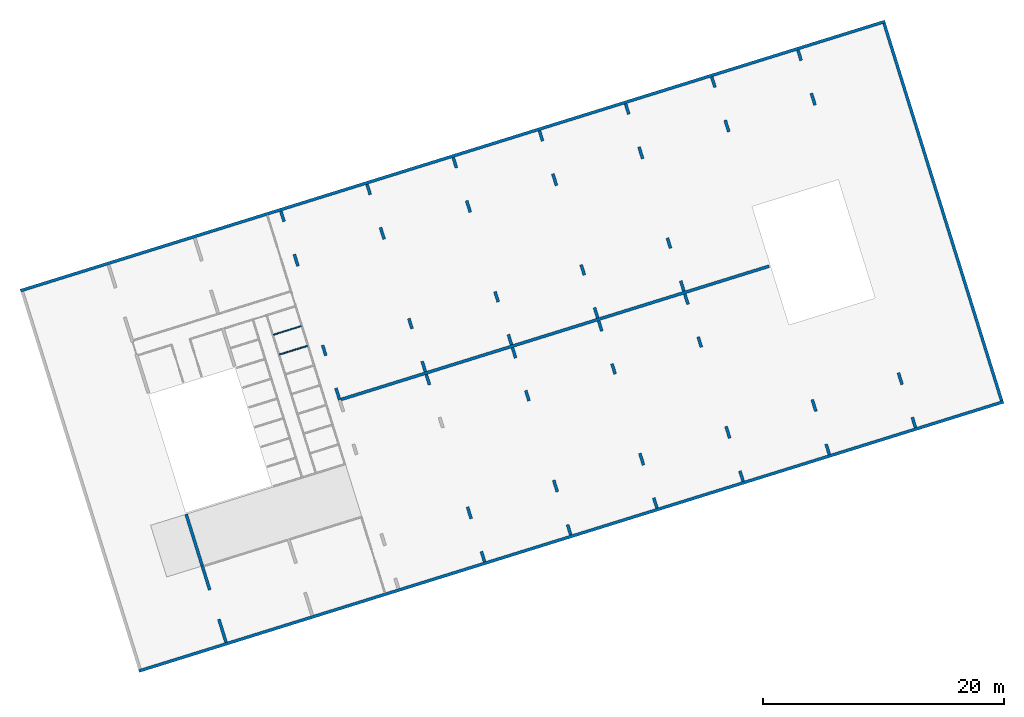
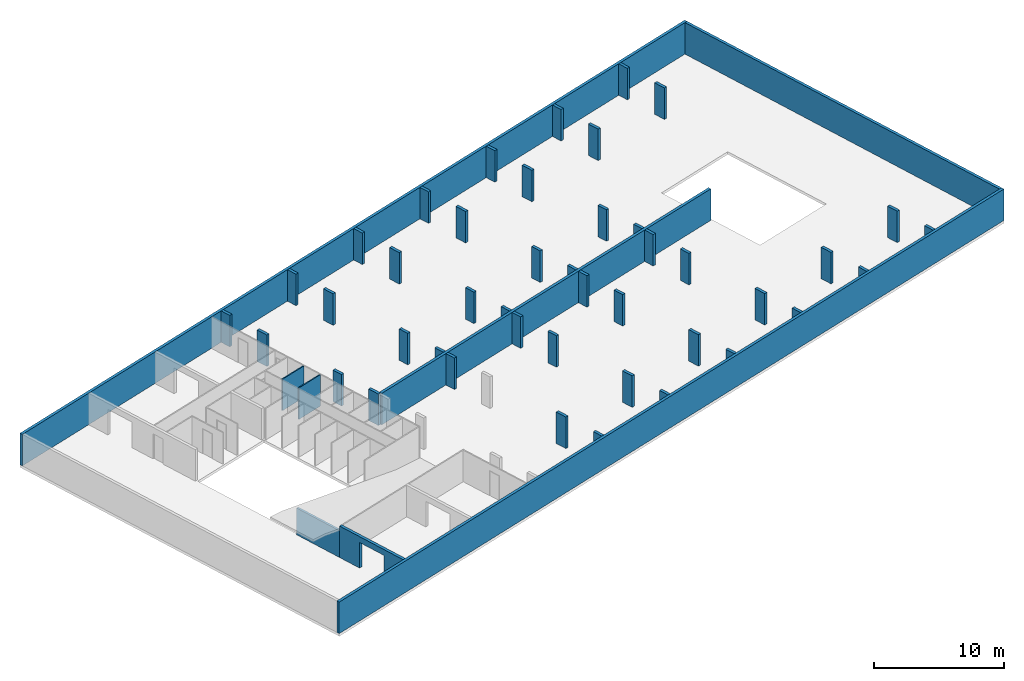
# One storey, part 2 of 4: 51 walls, 1 opening.
"""IFC4 building model written with IfcOpenShell, lengths in metres."""

from ifc_helpers import new_model, entity, si_unit, converted_unit, direction, frame, origin, place, context, subcontext, project, spatial, indexed_curve, outline, extrude, polygons, material, type_object, element, save


model = new_model("IFC4")

# Units and contexts
model_context = context("Model", 3, precision=1e-05, world=origin(), true_north=direction((6.12323399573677e-17, 1.0)))
body_context = subcontext(model_context, "Body", "Model", "MODEL_VIEW")
ifc_project = project(units=[si_unit("LENGTHUNIT", "METRE"), si_unit("AREAUNIT", "SQUARE_METRE"), si_unit("VOLUMEUNIT", "CUBIC_METRE"), converted_unit("PLANEANGLEUNIT", "DEGREE", entity("IfcPlaneAngleMeasure", 0.0174532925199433), si_unit("PLANEANGLEUNIT", "RADIAN"), dimensions=[0, 0, 0, 0, 0, 0, 0])], contexts=[model_context])

# Site, building, storey
site_placement = place(None, frame((13.1347999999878, 11.9886000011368, 0.0), z_axis=(0.0, 0.0, 1.0), x_axis=(0.954770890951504, 0.297342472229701, 0.0)))
site = spatial("IfcSite", under=ifc_project, at=site_placement, Name="Schiehaven", CompositionType="ELEMENT")
building_placement = place(site_placement, origin())
building = spatial("IfcBuilding", under=site, at=building_placement, Name="VORM huis", CompositionType="ELEMENT")
storey_placement = place(building_placement, frame((0.0, 0.0, -3.2)))
storey = spatial("IfcBuildingStorey", under=building, at=storey_placement, Name="-1 kelder", CompositionType="ELEMENT", Elevation=-3.2)

# Walls
ifc_material_1 = material(Name="beton_gewapend_ihw", Category="Miscellaneous")
wall_type_1 = type_object("IfcWallType", Name="Basic Wall:28_WA_skelet_keerwand 250mm_gen", PredefinedType="STANDARD")
wall_1_placement = place(storey_placement, frame((80.1250000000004, 0.499999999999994, 0.0), z_axis=(0.0, 0.0, 1.0), x_axis=(-1.0, 0.0, 0.0)))
element("IfcWall", 1, at=wall_1_placement, inside=storey, type_object=wall_type_1, material=ifc_material_1, Name="Constructieve keerwand", ObjectType="Wand", PredefinedType="NOTDEFINED", context=body_context, shape_type="SweptSolid", body=[
    extrude(outline(indexed_curve([(75.2500000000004, 0.125), (0.0, 0.125), (0.0, -0.125), (75.2500000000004, -0.125), (75.2500000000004, 0.125)], self_intersect=False)), origin(), (0.0, 0.0, 1.0), 2.95),
])
wall_2_placement = place(storey_placement, frame((80.1250000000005, 33.5999999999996, 0.0), z_axis=(0.0, 0.0, 1.0), x_axis=(-1.0, 0.0, 0.0)))
element("IfcWall", 2, at=wall_2_placement, inside=storey, type_object=wall_type_1, material=ifc_material_1, Name="Constructieve keerwand", ObjectType="Wand", PredefinedType="NOTDEFINED", context=body_context, shape_type="SweptSolid", body=[
    extrude(outline(indexed_curve([(75.2500000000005, 0.125000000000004), (-8.09239413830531e-16, 0.125000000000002), (8.09239413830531e-16, -0.125000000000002), (75.2500000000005, -0.125), (75.2500000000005, 0.125000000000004)], self_intersect=False)), origin(), (0.0, 0.0, 1.0), 2.95),
])
wall_3_placement = place(storey_placement, frame((80.0, 0.624999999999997, 0.0), z_axis=(0.0, 0.0, 1.0), x_axis=(0.0, 1.0, 0.0)))
element("IfcWall", 3, at=wall_3_placement, inside=storey, type_object=wall_type_1, material=ifc_material_1, Name="Constructieve keerwand", ObjectType="Wand", PredefinedType="NOTDEFINED", context=body_context, shape_type="SweptSolid", body=[
    extrude(outline(indexed_curve([(32.8499999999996, 0.125000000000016), (-2.9990862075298e-16, 0.125000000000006), (2.9990862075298e-16, -0.125000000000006), (32.8499999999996, -0.124999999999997), (32.8499999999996, 0.125000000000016)], self_intersect=False)), origin(), (0.0, 0.0, 1.0), 2.95),
])
wall_type_2 = type_object("IfcWallType", Name="Basic Wall:28_WA_skelet_wand 250mm_gen", PredefinedType="STANDARD")
wall_4_placement = place(storey_placement, frame((27.6250000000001, 17.0499999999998, 0.0)))
element("IfcWall", 4, at=wall_4_placement, inside=storey, type_object=wall_type_2, material=ifc_material_1, Name="Constructieve wand", ObjectType="Wand", PredefinedType="NOTDEFINED", context=body_context, shape_type="SweptSolid", body=[
    extrude(outline(indexed_curve([(37.25, 0.125), (0.0, 0.125), (0.0, -0.125), (37.25, -0.125), (37.25, 0.125)], self_intersect=False)), origin(), (0.0, 0.0, 1.0), 2.95),
])

# Wall, opening
wall_5_placement = place(storey_placement, frame((12.5, 0.624999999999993, 0.0), z_axis=(0.0, 0.0, 1.0), x_axis=(0.0, 1.0, 0.0)))
wall_5 = element("IfcWall", 5, at=wall_5_placement, inside=storey, type_object=wall_type_2, material=ifc_material_1, Name="Constructieve wand", ObjectType="Wand", PredefinedType="NOTDEFINED", context=body_context, shape_type="Tessellation", body=[
    polygons([(6.65000000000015, -0.124999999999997, 0.0), (6.65000000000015, -0.124999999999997, 2.95), (1.21822552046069e-15, -0.124999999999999, 2.95), (1.35358391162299e-15, -0.124999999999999, 0.0), (2.00000000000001, -0.124999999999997, 0.0), (2.00000000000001, -0.124999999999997, 2.4), (4.55000000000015, -0.124999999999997, 2.4), (4.55000000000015, -0.124999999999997, 0.0), (6.65000000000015, 0.125000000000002, 2.95), (6.65000000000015, 0.125000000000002, 0.0), (4.55000000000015, 0.125000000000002, 0.0), (4.55000000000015, 0.125000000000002, 2.4), (2.00000000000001, 0.125000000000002, 2.4), (2.00000000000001, 0.125000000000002, 0.0), (1.35358391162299e-16, 0.125000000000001, 0.0), (0.0, 0.125000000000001, 2.95)], [[[1, 2, 3, 4, 5, 6, 7, 8]], [[9, 10, 11, 12, 13, 14, 15, 16]], [[4, 15, 14, 5]], [[2, 1, 10, 9]], [[3, 2, 9, 16]], [[4, 3, 16, 15]], [[6, 13, 12, 7]], [[13, 6, 5, 14]], [[7, 12, 11, 8]], [[10, 1, 8, 11]]], closed=True),
])
opening_placement = place(wall_5_placement, origin())
element("IfcOpeningElement", 6, at=opening_placement, cuts=wall_5, Name="Constructieve wand", PredefinedType="OPENING", context=body_context, shape_type="SweptSolid", body=[
    extrude(outline(indexed_curve([(-1.2, -1.27500000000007), (1.2, -1.27500000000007), (1.2, 1.27500000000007), (-1.2, 1.27500000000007), (-1.2, -1.27500000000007)], self_intersect=False)), frame((3.27500000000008, -0.124999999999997, 1.2), z_axis=(0.0, 1.0, 0.0), x_axis=(0.0, 0.0, -1.0)), (0.0, 0.0, 1.0), 0.249999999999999),
])

# Walls
wall_6_placement = place(storey_placement, frame((35.0, 16.0249999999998, 0.0), z_axis=(0.0, 0.0, 1.0), x_axis=(0.0, 1.0, 0.0)))
element("IfcWall", 7, at=wall_6_placement, inside=storey, type_object=wall_type_2, material=ifc_material_1, Name="Constructieve wand", ObjectType="Wand", PredefinedType="NOTDEFINED", context=body_context, shape_type="SweptSolid", body=[
    extrude(outline(indexed_curve([(0.900000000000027, 0.125000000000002), (0.0, 0.125000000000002), (0.0, -0.125000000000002), (0.900000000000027, -0.125000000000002), (0.900000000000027, 0.125000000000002)], self_intersect=False)), origin(), (0.0, 0.0, 1.0), 2.95),
])
wall_7_placement = place(storey_placement, frame((35.0, 4.37499999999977, 0.0), z_axis=(0.0, 0.0, 1.0), x_axis=(0.0, 1.0, 0.0)))
element("IfcWall", 8, at=wall_7_placement, inside=storey, type_object=wall_type_2, material=ifc_material_1, Name="Constructieve wand", ObjectType="Wand", PredefinedType="NOTDEFINED", context=body_context, shape_type="SweptSolid", body=[
    extrude(outline(indexed_curve([(1.02499999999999, 0.125000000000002), (0.0, 0.125000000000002), (0.0, -0.125000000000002), (1.02499999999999, -0.125000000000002), (1.02499999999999, 0.125000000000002)], self_intersect=False)), origin(), (0.0, 0.0, 1.0), 2.95),
])
wall_8_placement = place(storey_placement, frame((42.5000000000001, 12.2949999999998, 0.0), z_axis=(0.0, 0.0, 1.0), x_axis=(0.0, 1.0, 0.0)))
element("IfcWall", 9, at=wall_8_placement, inside=storey, type_object=wall_type_2, material=ifc_material_1, Name="Constructieve wand", ObjectType="Wand", PredefinedType="NOTDEFINED", context=body_context, shape_type="SweptSolid", body=[
    extrude(outline(indexed_curve([(0.900000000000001, 0.124999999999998), (0.0, 0.124999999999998), (0.0, -0.124999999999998), (0.900000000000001, -0.124999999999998), (0.900000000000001, 0.124999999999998)], self_intersect=False)), origin(), (0.0, 0.0, 1.0), 2.95),
])
wall_9_placement = place(storey_placement, frame((42.5000000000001, 16.0249999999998, 0.0), z_axis=(0.0, 0.0, 1.0), x_axis=(0.0, 1.0, 0.0)))
element("IfcWall", 10, at=wall_9_placement, inside=storey, type_object=wall_type_2, material=ifc_material_1, Name="Constructieve wand", ObjectType="Wand", PredefinedType="NOTDEFINED", context=body_context, shape_type="SweptSolid", body=[
    extrude(outline(indexed_curve([(0.900000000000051, 0.124999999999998), (0.0, 0.124999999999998), (0.0, -0.124999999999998), (0.900000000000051, -0.124999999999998), (0.900000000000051, 0.124999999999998)], self_intersect=False)), origin(), (0.0, 0.0, 1.0), 2.95),
])
wall_10_placement = place(storey_placement, frame((42.5, 4.37499999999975, 0.0), z_axis=(0.0, 0.0, 1.0), x_axis=(0.0, 1.0, 0.0)))
element("IfcWall", 11, at=wall_10_placement, inside=storey, type_object=wall_type_2, material=ifc_material_1, Name="Constructieve wand", ObjectType="Wand", PredefinedType="NOTDEFINED", context=body_context, shape_type="SweptSolid", body=[
    extrude(outline(indexed_curve([(1.02499999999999, 0.124999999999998), (0.0, 0.124999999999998), (0.0, -0.124999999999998), (1.02499999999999, -0.124999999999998), (1.02499999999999, 0.124999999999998)], self_intersect=False)), origin(), (0.0, 0.0, 1.0), 2.95),
])
wall_11_placement = place(storey_placement, frame((50.0, 12.2949999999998, 0.0), z_axis=(0.0, 0.0, 1.0), x_axis=(0.0, 1.0, 0.0)))
element("IfcWall", 12, at=wall_11_placement, inside=storey, type_object=wall_type_2, material=ifc_material_1, Name="Constructieve wand", ObjectType="Wand", PredefinedType="NOTDEFINED", context=body_context, shape_type="SweptSolid", body=[
    extrude(outline(indexed_curve([(0.900000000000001, 0.124999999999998), (0.0, 0.124999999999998), (0.0, -0.124999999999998), (0.900000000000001, -0.124999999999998), (0.900000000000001, 0.124999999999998)], self_intersect=False)), origin(), (0.0, 0.0, 1.0), 2.95),
])
wall_12_placement = place(storey_placement, frame((50.0, 16.0249999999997, 0.0), z_axis=(0.0, 0.0, 1.0), x_axis=(0.0, 1.0, 0.0)))
element("IfcWall", 13, at=wall_12_placement, inside=storey, type_object=wall_type_2, material=ifc_material_1, Name="Constructieve wand", ObjectType="Wand", PredefinedType="NOTDEFINED", context=body_context, shape_type="SweptSolid", body=[
    extrude(outline(indexed_curve([(0.900000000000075, 0.124999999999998), (0.0, 0.124999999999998), (0.0, -0.124999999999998), (0.900000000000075, -0.124999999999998), (0.900000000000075, 0.124999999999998)], self_intersect=False)), origin(), (0.0, 0.0, 1.0), 2.95),
])
wall_13_placement = place(storey_placement, frame((50.0, 4.37499999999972, 0.0), z_axis=(0.0, 0.0, 1.0), x_axis=(0.0, 1.0, 0.0)))
element("IfcWall", 14, at=wall_13_placement, inside=storey, type_object=wall_type_2, material=ifc_material_1, Name="Constructieve wand", ObjectType="Wand", PredefinedType="NOTDEFINED", context=body_context, shape_type="SweptSolid", body=[
    extrude(outline(indexed_curve([(1.02499999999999, 0.124999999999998), (0.0, 0.124999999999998), (0.0, -0.124999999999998), (1.02499999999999, -0.124999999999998), (1.02499999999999, 0.124999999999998)], self_intersect=False)), origin(), (0.0, 0.0, 1.0), 2.95),
])
wall_14_placement = place(storey_placement, frame((57.5, 12.2949999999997, 0.0), z_axis=(0.0, 0.0, 1.0), x_axis=(0.0, 1.0, 0.0)))
element("IfcWall", 15, at=wall_14_placement, inside=storey, type_object=wall_type_2, material=ifc_material_1, Name="Constructieve wand", ObjectType="Wand", PredefinedType="NOTDEFINED", context=body_context, shape_type="SweptSolid", body=[
    extrude(outline(indexed_curve([(0.900000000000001, 0.124999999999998), (0.0, 0.124999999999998), (0.0, -0.124999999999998), (0.900000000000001, -0.124999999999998), (0.900000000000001, 0.124999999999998)], self_intersect=False)), origin(), (0.0, 0.0, 1.0), 2.95),
])
wall_15_placement = place(storey_placement, frame((57.5, 16.0249999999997, 0.0), z_axis=(0.0, 0.0, 1.0), x_axis=(0.0, 1.0, 0.0)))
element("IfcWall", 16, at=wall_15_placement, inside=storey, type_object=wall_type_2, material=ifc_material_1, Name="Constructieve wand", ObjectType="Wand", PredefinedType="NOTDEFINED", context=body_context, shape_type="SweptSolid", body=[
    extrude(outline(indexed_curve([(0.900000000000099, 0.124999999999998), (0.0, 0.124999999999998), (0.0, -0.124999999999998), (0.900000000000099, -0.124999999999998), (0.900000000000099, 0.124999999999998)], self_intersect=False)), origin(), (0.0, 0.0, 1.0), 2.95),
])
wall_16_placement = place(storey_placement, frame((57.5, 4.3749999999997, 0.0), z_axis=(0.0, 0.0, 1.0), x_axis=(0.0, 1.0, 0.0)))
element("IfcWall", 17, at=wall_16_placement, inside=storey, type_object=wall_type_2, material=ifc_material_1, Name="Constructieve wand", ObjectType="Wand", PredefinedType="NOTDEFINED", context=body_context, shape_type="SweptSolid", body=[
    extrude(outline(indexed_curve([(1.025, 0.124999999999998), (0.0, 0.124999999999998), (0.0, -0.124999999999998), (1.025, -0.124999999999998), (1.025, 0.124999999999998)], self_intersect=False)), origin(), (0.0, 0.0, 1.0), 2.95),
])
wall_17_placement = place(storey_placement, frame((65.0, 4.37499999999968, 0.0), z_axis=(0.0, 0.0, 1.0), x_axis=(0.0, 1.0, 0.0)))
element("IfcWall", 18, at=wall_17_placement, inside=storey, type_object=wall_type_2, material=ifc_material_1, Name="Constructieve wand", ObjectType="Wand", PredefinedType="NOTDEFINED", context=body_context, shape_type="SweptSolid", body=[
    extrude(outline(indexed_curve([(1.02499999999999, 0.124999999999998), (0.0, 0.124999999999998), (0.0, -0.124999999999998), (1.02499999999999, -0.124999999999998), (1.02499999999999, 0.124999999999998)], self_intersect=False)), origin(), (0.0, 0.0, 1.0), 2.95),
])
wall_18_placement = place(storey_placement, frame((35.0, 1.52499999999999, 0.0), z_axis=(0.0, 0.0, 1.0), x_axis=(0.0, -1.0, 0.0)))
element("IfcWall", 19, at=wall_18_placement, inside=storey, type_object=wall_type_2, material=ifc_material_1, Name="Constructieve wand", ObjectType="Wand", PredefinedType="NOTDEFINED", context=body_context, shape_type="SweptSolid", body=[
    extrude(outline(indexed_curve([(0.9, 0.125000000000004), (2.39074561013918e-16, 0.125000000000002), (-2.39074561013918e-16, -0.125000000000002), (0.9, -0.125), (0.9, 0.125000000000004)], self_intersect=False)), origin(), (0.0, 0.0, 1.0), 2.95),
])
wall_19_placement = place(storey_placement, frame((42.5, 1.52499999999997, 0.0), z_axis=(0.0, 0.0, 1.0), x_axis=(0.0, -1.0, 0.0)))
element("IfcWall", 20, at=wall_19_placement, inside=storey, type_object=wall_type_2, material=ifc_material_1, Name="Constructieve wand", ObjectType="Wand", PredefinedType="NOTDEFINED", context=body_context, shape_type="SweptSolid", body=[
    extrude(outline(indexed_curve([(0.899999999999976, 0.124999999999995), (2.39074561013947e-16, 0.124999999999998), (-2.39074561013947e-16, -0.124999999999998), (0.899999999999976, -0.125), (0.899999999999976, 0.124999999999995)], self_intersect=False)), origin(), (0.0, 0.0, 1.0), 2.95),
])
wall_20_placement = place(storey_placement, frame((50.0, 1.52499999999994, 0.0), z_axis=(0.0, 0.0, 1.0), x_axis=(0.0, -1.0, 0.0)))
element("IfcWall", 21, at=wall_20_placement, inside=storey, type_object=wall_type_2, material=ifc_material_1, Name="Constructieve wand", ObjectType="Wand", PredefinedType="NOTDEFINED", context=body_context, shape_type="SweptSolid", body=[
    extrude(outline(indexed_curve([(0.899999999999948, 0.124999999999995), (2.39074561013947e-16, 0.124999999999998), (-2.39074561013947e-16, -0.124999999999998), (0.899999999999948, -0.125), (0.899999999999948, 0.124999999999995)], self_intersect=False)), origin(), (0.0, 0.0, 1.0), 2.95),
])
wall_21_placement = place(storey_placement, frame((57.4999999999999, 1.52499999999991, 0.0), z_axis=(0.0, 0.0, 1.0), x_axis=(0.0, -1.0, 0.0)))
element("IfcWall", 22, at=wall_21_placement, inside=storey, type_object=wall_type_2, material=ifc_material_1, Name="Constructieve wand", ObjectType="Wand", PredefinedType="NOTDEFINED", context=body_context, shape_type="SweptSolid", body=[
    extrude(outline(indexed_curve([(0.89999999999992, 0.124999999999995), (2.39074561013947e-16, 0.124999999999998), (-2.39074561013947e-16, -0.124999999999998), (0.89999999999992, -0.125), (0.89999999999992, 0.124999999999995)], self_intersect=False)), origin(), (0.0, 0.0, 1.0), 2.95),
])
wall_22_placement = place(storey_placement, frame((65.0, 1.52499999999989, 0.0), z_axis=(0.0, 0.0, 1.0), x_axis=(0.0, -1.0, 0.0)))
element("IfcWall", 23, at=wall_22_placement, inside=storey, type_object=wall_type_2, material=ifc_material_1, Name="Constructieve wand", ObjectType="Wand", PredefinedType="NOTDEFINED", context=body_context, shape_type="SweptSolid", body=[
    extrude(outline(indexed_curve([(0.899999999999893, 0.124999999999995), (2.39074561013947e-16, 0.124999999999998), (-2.39074561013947e-16, -0.124999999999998), (0.899999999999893, -0.125), (0.899999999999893, 0.124999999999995)], self_intersect=False)), origin(), (0.0, 0.0, 1.0), 2.95),
])
wall_23_placement = place(storey_placement, frame((35.0, 21.8050000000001, 0.0), z_axis=(0.0, 0.0, 1.0), x_axis=(0.0, -1.0, 0.0)))
element("IfcWall", 24, at=wall_23_placement, inside=storey, type_object=wall_type_2, material=ifc_material_1, Name="Constructieve wand", ObjectType="Wand", PredefinedType="NOTDEFINED", context=body_context, shape_type="SweptSolid", body=[
    extrude(outline(indexed_curve([(0.900000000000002, 0.124999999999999), (-8.09239413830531e-16, 0.125000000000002), (8.09239413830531e-16, -0.125000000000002), (0.900000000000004, -0.125000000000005), (0.900000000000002, 0.124999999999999)], self_intersect=False)), origin(), (0.0, 0.0, 1.0), 2.95),
])
wall_24_placement = place(storey_placement, frame((35.0, 18.0750000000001, 0.0), z_axis=(0.0, 0.0, 1.0), x_axis=(0.0, -1.0, 0.0)))
element("IfcWall", 25, at=wall_24_placement, inside=storey, type_object=wall_type_2, material=ifc_material_1, Name="Constructieve wand", ObjectType="Wand", PredefinedType="NOTDEFINED", context=body_context, shape_type="SweptSolid", body=[
    extrude(outline(indexed_curve([(0.900000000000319, 0.124999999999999), (-8.09239413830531e-16, 0.125000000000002), (8.09239413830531e-16, -0.125000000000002), (0.90000000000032, -0.125000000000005), (0.900000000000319, 0.124999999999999)], self_intersect=False)), origin(), (0.0, 0.0, 1.0), 2.95),
])
wall_25_placement = place(storey_placement, frame((35.0, 29.7250000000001, 0.0), z_axis=(0.0, 0.0, 1.0), x_axis=(0.0, -1.0, 0.0)))
element("IfcWall", 26, at=wall_25_placement, inside=storey, type_object=wall_type_2, material=ifc_material_1, Name="Constructieve wand", ObjectType="Wand", PredefinedType="NOTDEFINED", context=body_context, shape_type="SweptSolid", body=[
    extrude(outline(indexed_curve([(1.025, 0.125), (-8.09239413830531e-16, 0.125000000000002), (8.09239413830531e-16, -0.125000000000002), (1.025, -0.125000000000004), (1.025, 0.125)], self_intersect=False)), origin(), (0.0, 0.0, 1.0), 2.95),
])
wall_26_placement = place(storey_placement, frame((42.5000000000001, 21.8050000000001, 0.0), z_axis=(0.0, 0.0, 1.0), x_axis=(0.0, -1.0, 0.0)))
element("IfcWall", 27, at=wall_26_placement, inside=storey, type_object=wall_type_2, material=ifc_material_1, Name="Constructieve wand", ObjectType="Wand", PredefinedType="NOTDEFINED", context=body_context, shape_type="SweptSolid", body=[
    extrude(outline(indexed_curve([(0.899999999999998, 0.125000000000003), (-8.09239413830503e-16, 0.124999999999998), (8.09239413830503e-16, -0.124999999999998), (0.9, -0.124999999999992), (0.899999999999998, 0.125000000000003)], self_intersect=False)), origin(), (0.0, 0.0, 1.0), 2.95),
])
wall_27_placement = place(storey_placement, frame((42.5000000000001, 18.0750000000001, 0.0), z_axis=(0.0, 0.0, 1.0), x_axis=(0.0, -1.0, 0.0)))
element("IfcWall", 28, at=wall_27_placement, inside=storey, type_object=wall_type_2, material=ifc_material_1, Name="Constructieve wand", ObjectType="Wand", PredefinedType="NOTDEFINED", context=body_context, shape_type="SweptSolid", body=[
    extrude(outline(indexed_curve([(0.900000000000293, 0.125000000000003), (-8.09239413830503e-16, 0.124999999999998), (8.09239413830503e-16, -0.124999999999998), (0.900000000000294, -0.124999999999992), (0.900000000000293, 0.125000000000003)], self_intersect=False)), origin(), (0.0, 0.0, 1.0), 2.95),
])
wall_28_placement = place(storey_placement, frame((42.5000000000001, 29.7250000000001, 0.0), z_axis=(0.0, 0.0, 1.0), x_axis=(0.0, -1.0, 0.0)))
element("IfcWall", 29, at=wall_28_placement, inside=storey, type_object=wall_type_2, material=ifc_material_1, Name="Constructieve wand", ObjectType="Wand", PredefinedType="NOTDEFINED", context=body_context, shape_type="SweptSolid", body=[
    extrude(outline(indexed_curve([(1.025, 0.124999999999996), (-8.09239413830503e-16, 0.124999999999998), (8.09239413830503e-16, -0.124999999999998), (1.025, -0.125), (1.025, 0.124999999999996)], self_intersect=False)), origin(), (0.0, 0.0, 1.0), 2.95),
])
wall_29_placement = place(storey_placement, frame((50.0, 21.8050000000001, 0.0), z_axis=(0.0, 0.0, 1.0), x_axis=(0.0, -1.0, 0.0)))
element("IfcWall", 30, at=wall_29_placement, inside=storey, type_object=wall_type_2, material=ifc_material_1, Name="Constructieve wand", ObjectType="Wand", PredefinedType="NOTDEFINED", context=body_context, shape_type="SweptSolid", body=[
    extrude(outline(indexed_curve([(0.900000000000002, 0.125000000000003), (-8.09239413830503e-16, 0.124999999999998), (8.09239413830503e-16, -0.124999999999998), (0.900000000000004, -0.124999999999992), (0.900000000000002, 0.125000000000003)], self_intersect=False)), origin(), (0.0, 0.0, 1.0), 2.95),
])
wall_30_placement = place(storey_placement, frame((50.0, 18.0750000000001, 0.0), z_axis=(0.0, 0.0, 1.0), x_axis=(0.0, -1.0, 0.0)))
element("IfcWall", 31, at=wall_30_placement, inside=storey, type_object=wall_type_2, material=ifc_material_1, Name="Constructieve wand", ObjectType="Wand", PredefinedType="NOTDEFINED", context=body_context, shape_type="SweptSolid", body=[
    extrude(outline(indexed_curve([(0.900000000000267, 0.125000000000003), (-8.09239413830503e-16, 0.124999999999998), (8.09239413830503e-16, -0.124999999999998), (0.900000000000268, -0.124999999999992), (0.900000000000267, 0.125000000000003)], self_intersect=False)), origin(), (0.0, 0.0, 1.0), 2.95),
])
wall_31_placement = place(storey_placement, frame((50.0, 29.7250000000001, 0.0), z_axis=(0.0, 0.0, 1.0), x_axis=(0.0, -1.0, 0.0)))
element("IfcWall", 32, at=wall_31_placement, inside=storey, type_object=wall_type_2, material=ifc_material_1, Name="Constructieve wand", ObjectType="Wand", PredefinedType="NOTDEFINED", context=body_context, shape_type="SweptSolid", body=[
    extrude(outline(indexed_curve([(1.02499999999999, 0.124999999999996), (-8.09239413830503e-16, 0.124999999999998), (8.09239413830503e-16, -0.124999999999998), (1.02499999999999, -0.125), (1.02499999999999, 0.124999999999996)], self_intersect=False)), origin(), (0.0, 0.0, 1.0), 2.95),
])
wall_32_placement = place(storey_placement, frame((57.5, 21.805, 0.0), z_axis=(0.0, 0.0, 1.0), x_axis=(0.0, -1.0, 0.0)))
element("IfcWall", 33, at=wall_32_placement, inside=storey, type_object=wall_type_2, material=ifc_material_1, Name="Constructieve wand", ObjectType="Wand", PredefinedType="NOTDEFINED", context=body_context, shape_type="SweptSolid", body=[
    extrude(outline(indexed_curve([(0.899999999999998, 0.125000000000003), (-8.09239413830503e-16, 0.124999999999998), (8.09239413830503e-16, -0.124999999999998), (0.9, -0.124999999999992), (0.899999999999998, 0.125000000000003)], self_intersect=False)), origin(), (0.0, 0.0, 1.0), 2.95),
])
wall_33_placement = place(storey_placement, frame((57.5, 18.0750000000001, 0.0), z_axis=(0.0, 0.0, 1.0), x_axis=(0.0, -1.0, 0.0)))
element("IfcWall", 34, at=wall_33_placement, inside=storey, type_object=wall_type_2, material=ifc_material_1, Name="Constructieve wand", ObjectType="Wand", PredefinedType="NOTDEFINED", context=body_context, shape_type="SweptSolid", body=[
    extrude(outline(indexed_curve([(0.900000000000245, 0.125000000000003), (-8.09239413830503e-16, 0.124999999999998), (8.09239413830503e-16, -0.124999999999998), (0.900000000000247, -0.124999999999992), (0.900000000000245, 0.125000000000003)], self_intersect=False)), origin(), (0.0, 0.0, 1.0), 2.95),
])
wall_34_placement = place(storey_placement, frame((57.5, 29.7250000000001, 0.0), z_axis=(0.0, 0.0, 1.0), x_axis=(0.0, -1.0, 0.0)))
element("IfcWall", 35, at=wall_34_placement, inside=storey, type_object=wall_type_2, material=ifc_material_1, Name="Constructieve wand", ObjectType="Wand", PredefinedType="NOTDEFINED", context=body_context, shape_type="SweptSolid", body=[
    extrude(outline(indexed_curve([(1.02499999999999, 0.124999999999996), (-8.09239413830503e-16, 0.124999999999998), (8.09239413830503e-16, -0.124999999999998), (1.02499999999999, -0.125), (1.02499999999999, 0.124999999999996)], self_intersect=False)), origin(), (0.0, 0.0, 1.0), 2.95),
])
wall_35_placement = place(storey_placement, frame((65.0, 29.7250000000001, 0.0), z_axis=(0.0, 0.0, 1.0), x_axis=(0.0, -1.0, 0.0)))
element("IfcWall", 36, at=wall_35_placement, inside=storey, type_object=wall_type_2, material=ifc_material_1, Name="Constructieve wand", ObjectType="Wand", PredefinedType="NOTDEFINED", context=body_context, shape_type="SweptSolid", body=[
    extrude(outline(indexed_curve([(1.025, 0.124999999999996), (-8.09239413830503e-16, 0.124999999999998), (8.09239413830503e-16, -0.124999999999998), (1.025, -0.125), (1.025, 0.124999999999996)], self_intersect=False)), origin(), (0.0, 0.0, 1.0), 2.95),
])
wall_36_placement = place(storey_placement, frame((35.0, 32.5749999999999, 0.0), z_axis=(0.0, 0.0, 1.0), x_axis=(0.0, 1.0, 0.0)))
element("IfcWall", 37, at=wall_36_placement, inside=storey, type_object=wall_type_2, material=ifc_material_1, Name="Constructieve wand", ObjectType="Wand", PredefinedType="NOTDEFINED", context=body_context, shape_type="SweptSolid", body=[
    extrude(outline(indexed_curve([(0.899999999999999, 0.125000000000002), (3.45531544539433e-17, 0.125000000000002), (-3.45531544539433e-17, -0.125000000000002), (0.899999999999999, -0.125000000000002), (0.899999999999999, 0.125000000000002)], self_intersect=False)), origin(), (0.0, 0.0, 1.0), 2.95),
])
wall_37_placement = place(storey_placement, frame((42.5000000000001, 32.5749999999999, 0.0), z_axis=(0.0, 0.0, 1.0), x_axis=(0.0, 1.0, 0.0)))
element("IfcWall", 38, at=wall_37_placement, inside=storey, type_object=wall_type_2, material=ifc_material_1, Name="Constructieve wand", ObjectType="Wand", PredefinedType="NOTDEFINED", context=body_context, shape_type="SweptSolid", body=[
    extrude(outline(indexed_curve([(0.899999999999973, 0.124999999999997), (3.45531544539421e-17, 0.124999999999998), (-3.45531544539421e-17, -0.124999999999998), (0.899999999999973, -0.124999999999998), (0.899999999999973, 0.124999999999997)], self_intersect=False)), origin(), (0.0, 0.0, 1.0), 2.95),
])
wall_38_placement = place(storey_placement, frame((50.0, 32.5749999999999, 0.0), z_axis=(0.0, 0.0, 1.0), x_axis=(0.0, 1.0, 0.0)))
element("IfcWall", 39, at=wall_38_placement, inside=storey, type_object=wall_type_2, material=ifc_material_1, Name="Constructieve wand", ObjectType="Wand", PredefinedType="NOTDEFINED", context=body_context, shape_type="SweptSolid", body=[
    extrude(outline(indexed_curve([(0.899999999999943, 0.124999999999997), (3.45531544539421e-17, 0.124999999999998), (-3.45531544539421e-17, -0.124999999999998), (0.899999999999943, -0.124999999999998), (0.899999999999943, 0.124999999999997)], self_intersect=False)), origin(), (0.0, 0.0, 1.0), 2.95),
])
wall_39_placement = place(storey_placement, frame((57.5, 32.5749999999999, 0.0), z_axis=(0.0, 0.0, 1.0), x_axis=(0.0, 1.0, 0.0)))
element("IfcWall", 40, at=wall_39_placement, inside=storey, type_object=wall_type_2, material=ifc_material_1, Name="Constructieve wand", ObjectType="Wand", PredefinedType="NOTDEFINED", context=body_context, shape_type="SweptSolid", body=[
    extrude(outline(indexed_curve([(0.899999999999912, 0.124999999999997), (3.45531544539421e-17, 0.124999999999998), (-3.45531544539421e-17, -0.124999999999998), (0.899999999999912, -0.124999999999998), (0.899999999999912, 0.124999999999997)], self_intersect=False)), origin(), (0.0, 0.0, 1.0), 2.95),
])
wall_40_placement = place(storey_placement, frame((65.0, 32.5749999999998, 0.0), z_axis=(0.0, 0.0, 1.0), x_axis=(0.0, 1.0, 0.0)))
element("IfcWall", 41, at=wall_40_placement, inside=storey, type_object=wall_type_2, material=ifc_material_1, Name="Constructieve wand", ObjectType="Wand", PredefinedType="NOTDEFINED", context=body_context, shape_type="SweptSolid", body=[
    extrude(outline(indexed_curve([(0.899999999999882, 0.124999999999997), (3.45531544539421e-17, 0.124999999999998), (-3.45531544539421e-17, -0.124999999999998), (0.899999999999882, -0.124999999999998), (0.899999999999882, 0.124999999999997)], self_intersect=False)), origin(), (0.0, 0.0, 1.0), 2.95),
])
wall_41_placement = place(storey_placement, frame((27.5000000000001, 21.8050000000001, 0.0), z_axis=(0.0, 0.0, 1.0), x_axis=(0.0, -1.0, 0.0)))
element("IfcWall", 42, at=wall_41_placement, inside=storey, type_object=wall_type_2, material=ifc_material_1, Name="Constructieve wand", ObjectType="Wand", PredefinedType="NOTDEFINED", context=body_context, shape_type="SweptSolid", body=[
    extrude(outline(indexed_curve([(0.899999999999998, 0.124999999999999), (-8.09239413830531e-16, 0.125000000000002), (8.09239413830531e-16, -0.125000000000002), (0.9, -0.125000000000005), (0.899999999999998, 0.124999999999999)], self_intersect=False)), origin(), (0.0, 0.0, 1.0), 2.95),
])
wall_42_placement = place(storey_placement, frame((27.5000000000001, 18.0750000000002, 0.0), z_axis=(0.0, 0.0, 1.0), x_axis=(0.0, -1.0, 0.0)))
element("IfcWall", 43, at=wall_42_placement, inside=storey, type_object=wall_type_2, material=ifc_material_1, Name="Constructieve wand", ObjectType="Wand", PredefinedType="NOTDEFINED", context=body_context, shape_type="SweptSolid", body=[
    extrude(outline(indexed_curve([(1.02500000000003, 0.125), (-8.09239413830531e-16, 0.125000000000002), (8.09239413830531e-16, -0.125000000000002), (1.02500000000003, -0.125000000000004), (1.02500000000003, 0.125)], self_intersect=False)), origin(), (0.0, 0.0, 1.0), 2.95),
])
wall_43_placement = place(storey_placement, frame((27.5000000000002, 29.7250000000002, 0.0), z_axis=(0.0, 0.0, 1.0), x_axis=(0.0, -1.0, 0.0)))
element("IfcWall", 44, at=wall_43_placement, inside=storey, type_object=wall_type_2, material=ifc_material_1, Name="Constructieve wand", ObjectType="Wand", PredefinedType="NOTDEFINED", context=body_context, shape_type="SweptSolid", body=[
    extrude(outline(indexed_curve([(1.025, 0.125), (-8.09239413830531e-16, 0.125000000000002), (8.09239413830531e-16, -0.125000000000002), (1.025, -0.125000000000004), (1.025, 0.125)], self_intersect=False)), origin(), (0.0, 0.0, 1.0), 2.95),
])
wall_44_placement = place(storey_placement, frame((27.5000000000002, 32.575, 0.0), z_axis=(0.0, 0.0, 1.0), x_axis=(0.0, 1.0, 0.0)))
element("IfcWall", 45, at=wall_44_placement, inside=storey, type_object=wall_type_2, material=ifc_material_1, Name="Constructieve wand", ObjectType="Wand", PredefinedType="NOTDEFINED", context=body_context, shape_type="SweptSolid", body=[
    extrude(outline(indexed_curve([(0.900000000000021, 0.125000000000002), (3.45531544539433e-17, 0.125000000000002), (-3.45531544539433e-17, -0.125000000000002), (0.900000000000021, -0.125000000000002), (0.900000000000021, 0.125000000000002)], self_intersect=False)), origin(), (0.0, 0.0, 1.0), 2.95),
])
wall_45_placement = place(storey_placement, frame((72.4999999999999, 4.37499999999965, 0.0), z_axis=(0.0, 0.0, 1.0), x_axis=(0.0, 1.0, 0.0)))
element("IfcWall", 46, at=wall_45_placement, inside=storey, type_object=wall_type_2, material=ifc_material_1, Name="Constructieve wand", ObjectType="Wand", PredefinedType="NOTDEFINED", context=body_context, shape_type="SweptSolid", body=[
    extrude(outline(indexed_curve([(1.02499999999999, 0.124999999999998), (0.0, 0.124999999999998), (0.0, -0.124999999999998), (1.02499999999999, -0.124999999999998), (1.02499999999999, 0.124999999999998)], self_intersect=False)), origin(), (0.0, 0.0, 1.0), 2.95),
])
wall_46_placement = place(storey_placement, frame((72.4999999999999, 1.52499999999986, 0.0), z_axis=(0.0, 0.0, 1.0), x_axis=(0.0, -1.0, 0.0)))
element("IfcWall", 47, at=wall_46_placement, inside=storey, type_object=wall_type_2, material=ifc_material_1, Name="Constructieve wand", ObjectType="Wand", PredefinedType="NOTDEFINED", context=body_context, shape_type="SweptSolid", body=[
    extrude(outline(indexed_curve([(0.899999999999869, 0.124999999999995), (2.39074561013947e-16, 0.124999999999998), (-2.39074561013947e-16, -0.124999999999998), (0.899999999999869, -0.125), (0.899999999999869, 0.124999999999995)], self_intersect=False)), origin(), (0.0, 0.0, 1.0), 2.95),
])
wall_47_placement = place(storey_placement, frame((72.5, 29.725, 0.0), z_axis=(0.0, 0.0, 1.0), x_axis=(0.0, -1.0, 0.0)))
element("IfcWall", 48, at=wall_47_placement, inside=storey, type_object=wall_type_2, material=ifc_material_1, Name="Constructieve wand", ObjectType="Wand", PredefinedType="NOTDEFINED", context=body_context, shape_type="SweptSolid", body=[
    extrude(outline(indexed_curve([(1.025, 0.124999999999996), (-8.09239413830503e-16, 0.124999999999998), (8.09239413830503e-16, -0.124999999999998), (1.025, -0.125), (1.025, 0.124999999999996)], self_intersect=False)), origin(), (0.0, 0.0, 1.0), 2.95),
])
wall_48_placement = place(storey_placement, frame((72.5, 32.5749999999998, 0.0), z_axis=(0.0, 0.0, 1.0), x_axis=(0.0, 1.0, 0.0)))
element("IfcWall", 49, at=wall_48_placement, inside=storey, type_object=wall_type_2, material=ifc_material_1, Name="Constructieve wand", ObjectType="Wand", PredefinedType="NOTDEFINED", context=body_context, shape_type="SweptSolid", body=[
    extrude(outline(indexed_curve([(0.89999999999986, 0.124999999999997), (3.45531544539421e-17, 0.124999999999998), (-3.45531544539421e-17, -0.124999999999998), (0.89999999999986, -0.124999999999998), (0.89999999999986, 0.124999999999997)], self_intersect=False)), origin(), (0.0, 0.0, 1.0), 2.95),
])
wall_49_placement = place(storey_placement, frame((12.5, 7.27500000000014, 0.0), z_axis=(0.0, 0.0, 1.0), x_axis=(0.0, 1.0, 0.0)))
element("IfcWall", 50, at=wall_49_placement, inside=storey, type_object=wall_type_2, material=ifc_material_1, Name="Constructieve wand", ObjectType="Wand", PredefinedType="NOTDEFINED", context=body_context, shape_type="Tessellation", body=[
    polygons([(-1.08286712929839e-15, -0.124999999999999, 0.0), (4.5, -0.124999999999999, 0.0), (4.5, -0.124999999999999, 2.45221479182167), (-1.08286712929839e-15, -0.124999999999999, 2.45221479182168), (-1.08286712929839e-15, 0.125, 0.0), (-1.08286712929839e-15, 0.125, 2.50596462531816), (4.5, 0.125, 2.50596462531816), (4.5, 0.125, 0.0)], [[[1, 2, 3, 4]], [[5, 6, 7, 8]], [[2, 1, 5, 8]], [[3, 2, 8, 7]], [[1, 4, 6, 5]], [[4, 3, 7, 6]]], closed=True),
])
ifc_material_2 = material(Name="ntb_ntb_ntb", Category="Miscellaneous")
wall_type_3 = type_object("IfcWallType", Name="Basic Wall:22_WA_afbouw_binnenwand 100mm_gen", PredefinedType="STANDARD")
for number, where in (
    (51, (23.8500000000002, 22.1374999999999, 0.0)),
    (52, (23.8500000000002, 23.8562499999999, 0.0)),
):
    element("IfcWall", number, at=place(storey_placement, frame(where)), inside=storey, type_object=wall_type_3, material=ifc_material_2, Name="Binnenwand", ObjectType="Wand", PredefinedType="NOTDEFINED", context=body_context, shape_type="SweptSolid", body=[
        extrude(outline(indexed_curve([(2.42500000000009, 0.0500000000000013), (-1.71543307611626e-16, 0.0500000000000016), (1.71543307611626e-16, -0.0500000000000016), (2.42500000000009, -0.050000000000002), (2.42500000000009, 0.0500000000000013)], self_intersect=False)), origin(), (0.0, 0.0, 1.0), 2.95),
    ])

save(model, "model.ifc")
